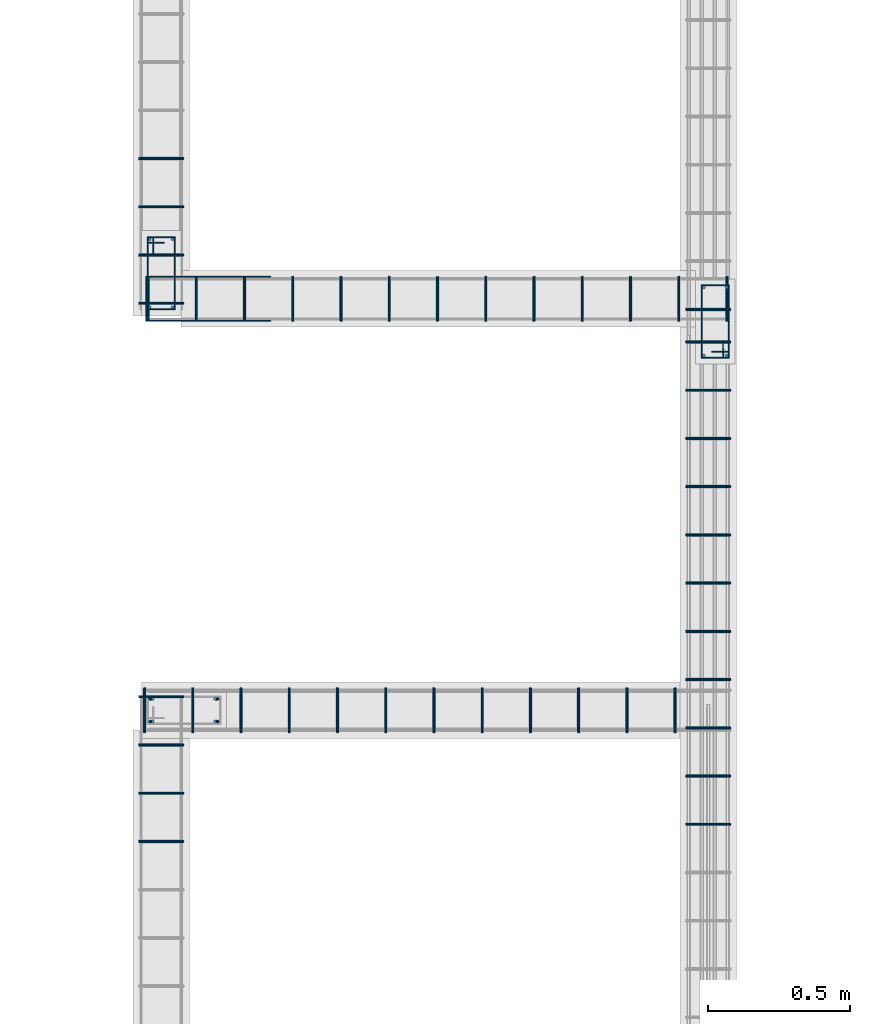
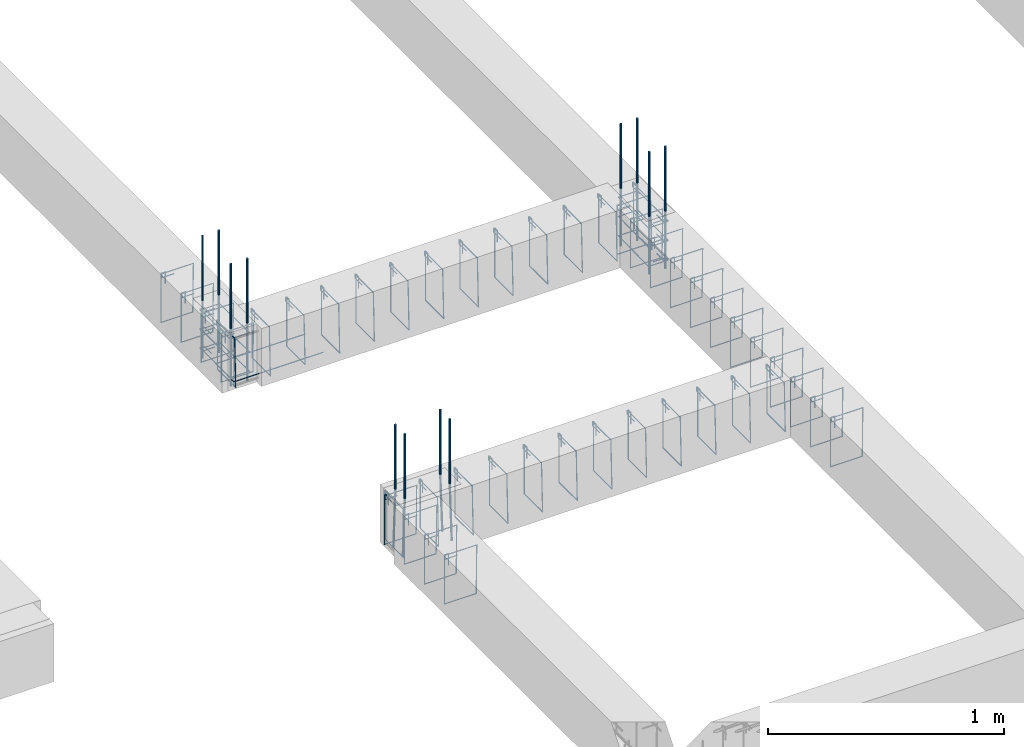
# One storey, part 54 of 150: 64 reinforcing bars.
"""IFC4 building model written with IfcOpenShell, lengths in centimetres."""

import ifcopenshell
import ifcopenshell.guid

model = None  # the IFC model being written
_history = None  # IfcOwnerHistory: only IFC2X3 demands one
_inside = {}  # id of a spatial element -> (the spatial element, [elements in it])
_under = {}  # id of a project, library or spatial element -> (it, [spatial elements below it])
_declared = {}  # id of a project -> (the project, [libraries it declares])
_typed = {}  # id of a type object -> (the type object, [elements of that type])
_made_of = {}  # id of a material, layer set ... -> (it, [elements and type objects made of it])


def new_model(schema):
    """Start an empty IFC model of exactly this schema.

    Asked for "IFC4X3", IfcOpenShell would pick the latest addendum, in which some entities
    have other attributes; the version numbers below select the first issue.
    IFC2X3 requires an IfcOwnerHistory on every rooted entity: one is made here for all.
    """
    global model, _history
    if schema == "IFC4X3":
        model = ifcopenshell.file(schema_version=(4, 3, 0, 0))
    else:
        model = ifcopenshell.file(schema=schema)
    _inside.clear()
    _under.clear()
    _declared.clear()
    _typed.clear()
    _made_of.clear()
    _history = None
    if model.schema == "IFC2X3":
        org = make("IfcOrganization", Name="unknown")
        user = make(
            "IfcPersonAndOrganization",
            ThePerson=make("IfcPerson", FamilyName="unknown"),
            TheOrganization=org,
        )
        app = make(
            "IfcApplication",
            ApplicationDeveloper=org,
            Version="unknown",
            ApplicationFullName="unknown",
            ApplicationIdentifier="unknown",
        )
        _history = make(
            "IfcOwnerHistory",
            OwningUser=user,
            OwningApplication=app,
            ChangeAction="ADDED",
            CreationDate=0,
        )
    return model


def make(cls, **values):
    """One entity of the class cls with the attributes given. An attribute that is None is left unset."""
    return model.create_entity(
        cls, **{name: value for name, value in values.items() if value is not None}
    )


def entity(cls, *values):
    """Any entity or typed value of the class cls, its attributes in the order of the schema. None: left unset."""
    e = model.create_entity(cls)
    for i, value in enumerate(values):
        if value is not None:
            e[i] = value
    return e


def rooted(cls, **values):
    """An entity with a GlobalId (a new one), such as an element, a storey or a relation."""
    return make(cls, GlobalId=ifcopenshell.guid.new(), OwnerHistory=_history, **values)


def si_unit(unit_type, name, prefix=None):
    """IfcSIUnit, for example si_unit("LENGTHUNIT", "METRE", prefix="MILLI")."""
    return make("IfcSIUnit", UnitType=unit_type, Prefix=prefix, Name=name)


def derived_unit(unit_type, elements):
    """IfcDerivedUnit: a product of units, each with its exponent."""
    return make(
        "IfcDerivedUnit",
        Elements=[
            make("IfcDerivedUnitElement", Unit=unit, Exponent=power)
            for unit, power in elements
        ],
        UnitType=unit_type,
    )


def assignment(units):
    """IfcUnitAssignment: the units of a project."""
    return None if units is None else make("IfcUnitAssignment", Units=units)


def point(xyz):
    """IfcCartesianPoint."""
    return None if xyz is None else make("IfcCartesianPoint", Coordinates=xyz)


def direction(xyz):
    """IfcDirection."""
    return None if xyz is None else make("IfcDirection", DirectionRatios=xyz)


def frame(location, z_axis=None, x_axis=None):
    """IfcAxis2Placement3D, a coordinate frame: its origin and axes. An axis left out is left unset."""
    return make(
        "IfcAxis2Placement3D",
        Location=point(location),
        Axis=direction(z_axis),
        RefDirection=direction(x_axis),
    )


def origin_with_axes():
    """The frame at (0, 0, 0) with the z axis (0, 0, 1) and the x axis (1, 0, 0) written out."""
    return frame((0.0, 0.0, 0.0), z_axis=(0.0, 0.0, 1.0), x_axis=(1.0, 0.0, 0.0))


def place(relative_to, where):
    """IfcLocalPlacement: puts the frame where relative to a parent placement (None: the world)."""
    return make(
        "IfcLocalPlacement", PlacementRelTo=relative_to, RelativePlacement=where
    )


def context(
    kind, dimensions, precision=None, world=None, true_north=None, identifier=None
):
    """IfcGeometricRepresentationContext, for example the 3D "Model" context."""
    return make(
        "IfcGeometricRepresentationContext",
        ContextIdentifier=identifier,
        ContextType=kind,
        CoordinateSpaceDimension=dimensions,
        Precision=precision,
        WorldCoordinateSystem=world,
        TrueNorth=true_north,
    )


def project(units=None, contexts=None):
    """IfcProject with its units and contexts."""
    return rooted(
        "IfcProject",
        Name="project",
        RepresentationContexts=contexts,
        UnitsInContext=assignment(units),
    )


def spatial(cls, under=None, at=None, **own):
    """A site, building, storey or space (cls), placed at a placement, below another one or the project."""
    s = rooted(cls, ObjectPlacement=at, **own)
    if under is not None:
        _under.setdefault(under.id(), (under, []))[1].append(s)
    return s


def shape(context_of_items, identifier, shape_type, items):
    """IfcShapeRepresentation: the items that make up one representation, for example the "Body"."""
    return make(
        "IfcShapeRepresentation",
        ContextOfItems=context_of_items,
        RepresentationIdentifier=identifier,
        RepresentationType=shape_type,
        Items=items,
    )


def source(mapping_origin, context_of_items, identifier, shape_type, items):
    """IfcRepresentationMap: a shape defined once, which mapped items show again and again."""
    return make(
        "IfcRepresentationMap",
        MappingOrigin=mapping_origin,
        MappedRepresentation=shape(context_of_items, identifier, shape_type, items),
    )


def transform(
    local_origin,
    x_axis=None,
    y_axis=None,
    z_axis=None,
    scale=None,
    scale2=None,
    scale3=None,
    uniform=True,
):
    """IfcCartesianTransformationOperator3D, or its non-uniform kind. x_axis, y_axis, z_axis: its Axis1, 2, 3."""
    if uniform:
        return make(
            "IfcCartesianTransformationOperator3D",
            Axis1=direction(x_axis),
            Axis2=direction(y_axis),
            LocalOrigin=point(local_origin),
            Scale=scale,
            Axis3=direction(z_axis),
        )
    return make(
        "IfcCartesianTransformationOperator3DnonUniform",
        Axis1=direction(x_axis),
        Axis2=direction(y_axis),
        LocalOrigin=point(local_origin),
        Scale=scale,
        Axis3=direction(z_axis),
        Scale2=scale2,
        Scale3=scale3,
    )


def mapped(mapping_source, mapping_target):
    """IfcMappedItem: shows the shape of a source again, moved by a transform."""
    return make(
        "IfcMappedItem", MappingSource=mapping_source, MappingTarget=mapping_target
    )


def made_of(thing, what):
    """Note that an element or type object is made of a material, layer set ...; save() writes the relation."""
    if what is not None:
        _made_of.setdefault(what.id(), (what, []))[1].append(thing)
    return thing


def element(
    cls,
    number,
    at=None,
    inside=None,
    cuts=None,
    type_object=None,
    material=None,
    context=None,
    identifier="Body",
    shape_type=None,
    held_by="IfcProductDefinitionShape",
    body=None,
    shapes=None,
    **own,
):
    """One element of the class cls, such as IfcWall. Its Tag is "e" and its number.

    at: its placement. inside: the storey or other place that contains it. cuts: it is an
    opening in that element (IfcRelVoidsElement). A single representation is given by context,
    identifier, shape_type and body (its items); several are given by shapes. held_by: the class
    of the entity that holds the representations. save() writes the other relations.
    """
    e = rooted(cls, Tag="e%d" % number, ObjectPlacement=at, **own)
    if body is not None:
        shapes = [shape(context, identifier, shape_type, body)]
    if shapes is not None:
        e.Representation = make(held_by, Representations=shapes)
    if inside is not None:
        _inside.setdefault(inside.id(), (inside, []))[1].append(e)
    if cuts is not None:
        rooted(
            "IfcRelVoidsElement", RelatingBuildingElement=cuts, RelatedOpeningElement=e
        )
    if type_object is not None:
        _typed.setdefault(type_object.id(), (type_object, []))[1].append(e)
    return made_of(e, material)


def aggregate(whole, parts):
    """IfcRelAggregates: a whole, such as a stair, and the parts it consists of."""
    return rooted("IfcRelAggregates", RelatingObject=whole, RelatedObjects=parts)


def save(model, path):
    """Write the relations noted so far, then the file.

    IfcRelAggregates (storeys below a building ...), IfcRelContainedInSpatialStructure (elements
    in a storey), IfcRelDefinesByType, IfcRelAssociatesMaterial and IfcRelDeclares: one each for
    every whole, place, type object, material and project.
    """
    for whole, parts in _under.values():
        aggregate(whole, parts)
    for where, things in _inside.values():
        rooted(
            "IfcRelContainedInSpatialStructure",
            RelatedElements=things,
            RelatingStructure=where,
        )
    for kind, things in _typed.values():
        rooted("IfcRelDefinesByType", RelatedObjects=things, RelatingType=kind)
    for what, things in _made_of.values():
        rooted("IfcRelAssociatesMaterial", RelatedObjects=things, RelatingMaterial=what)
    for by, libraries in _declared.values():
        rooted("IfcRelDeclares", RelatingContext=by, RelatedDefinitions=libraries)
    model.write(path)


model = new_model("IFC4")

# Units and contexts
model_context = context("Model", 3, precision=1e-05, world=origin_with_axes(), identifier="Body")
ifc_project = project(units=[si_unit("LENGTHUNIT", "METRE", prefix="CENTI"), si_unit("VOLUMEUNIT", "CUBIC_METRE"), si_unit("AREAUNIT", "SQUARE_METRE"), si_unit("POWERUNIT", "WATT"), si_unit("LUMINOUSFLUXUNIT", "LUMEN"), si_unit("ELECTRICCURRENTUNIT", "AMPERE"), si_unit("PRESSUREUNIT", "PASCAL", prefix="KILO"), si_unit("MASSUNIT", "GRAM", prefix="KILO"), si_unit("PLANEANGLEUNIT", "RADIAN"), derived_unit("VOLUMETRICFLOWRATEUNIT", [(si_unit("LENGTHUNIT", "METRE"), 3), (si_unit("TIMEUNIT", "SECOND"), -1)])], contexts=[model_context])

# Site, building, storey
site_placement = place(None, frame((-4000.0, 0.0, 0.0), z_axis=(0.0, 0.0, 1.0), x_axis=(1.0, 0.0, 0.0)))
site = spatial("IfcSite", under=ifc_project, at=site_placement, Name="PADRÃO")
building_placement = place(site_placement, frame((0.0, 0.0, -14.0)))
building = spatial("IfcBuilding", under=site, at=building_placement, Name="CRECHE PRÉ-ESCOLA TIPO 2")
placement = place(building_placement, origin_with_axes())
storey_placement = place(placement, frame((0.0, 0.0, 30.0), z_axis=(0.0, 0.0, 1.0), x_axis=(1.0, 0.0, 0.0)))
storey = spatial("IfcBuildingStorey", under=building, at=storey_placement, Name="VIGA BALDRAME", CompositionType="ELEMENT", Elevation=16.0)

# Reinforcing bars
shared_shape_1 = source(origin_with_axes(), model_context, "Body", "AdvancedSweptSolid", [
    entity("IfcSweptDiskSolid", entity("IfcCompositeCurve", [entity("IfcCompositeCurveSegment", "CONTINUOUS", True, entity("IfcPolyline", [entity("IfcCartesianPoint", [4.25, 21.75, 0.0]), entity("IfcCartesianPoint", [4.25, 27.75, 0.0])])), entity("IfcCompositeCurveSegment", "CONTINUOUS", True, entity("IfcPolyline", [entity("IfcCartesianPoint", [4.25, 27.75, 0.0]), entity("IfcCartesianPoint", [2.25, 27.75, 0.0])])), entity("IfcCompositeCurveSegment", "CONTINUOUS", True, entity("IfcPolyline", [entity("IfcCartesianPoint", [2.25, 27.75, 0.0]), entity("IfcCartesianPoint", [2.25, 2.25, 0.0])])), entity("IfcCompositeCurveSegment", "CONTINUOUS", True, entity("IfcPolyline", [entity("IfcCartesianPoint", [2.25, 2.25, 0.0]), entity("IfcCartesianPoint", [11.75, 2.25, 0.0])])), entity("IfcCompositeCurveSegment", "CONTINUOUS", True, entity("IfcPolyline", [entity("IfcCartesianPoint", [11.75, 2.25, 0.0]), entity("IfcCartesianPoint", [11.75, 27.75, -0.5])])), entity("IfcCompositeCurveSegment", "CONTINUOUS", True, entity("IfcPolyline", [entity("IfcCartesianPoint", [11.75, 27.75, -0.5]), entity("IfcCartesianPoint", [2.25, 27.75, -0.5])])), entity("IfcCompositeCurveSegment", "CONTINUOUS", True, entity("IfcPolyline", [entity("IfcCartesianPoint", [2.25, 27.75, -0.5]), entity("IfcCartesianPoint", [2.25, 25.75, -0.5])])), entity("IfcCompositeCurveSegment", "CONTINUOUS", True, entity("IfcPolyline", [entity("IfcCartesianPoint", [2.25, 25.75, -0.5]), entity("IfcCartesianPoint", [8.25, 25.75, -0.5])]))], False), 0.25),
])
for number, where, z_axis, x_axis, name in (
    (1, (2936.24, 1391.51, -25.0), (0.0, 0.0, 1.0), (1.0, 0.0, 0.0), "P104 - Estribo"),
    (2, (2936.24, 1391.51, -15.0), (0.0, 0.0, 1.0), (1.0, 0.0, 0.0), "P104 - Estribo"),
    (3, (2936.24, 1391.51, -5.0), (0.0, 0.0, 1.0), (1.0, 0.0, 0.0), "P104 - Estribo"),
):
    element("IfcReinforcingBar", number, at=place(storey_placement, frame(where, z_axis=z_axis, x_axis=x_axis)), inside=storey, Name=name, BarLength=0.0, CrossSectionArea=1.9634954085e-05, NominalDiameter=0.5, PredefinedType="MAIN", context=model_context, shape_type="MappedRepresentation", body=[
        mapped(shared_shape_1, transform((0.0, 0.0, 0.0), scale=1.0)),
    ])
shared_shape_2 = source(origin_with_axes(), model_context, "Body", "AdvancedSweptSolid", [
    entity("IfcSweptDiskSolid", entity("IfcCompositeCurve", [entity("IfcCompositeCurveSegment", "CONTINUOUS", True, entity("IfcPolyline", [entity("IfcCartesianPoint", [4.25, 21.75, 0.0]), entity("IfcCartesianPoint", [4.25, 27.75, 0.0])])), entity("IfcCompositeCurveSegment", "CONTINUOUS", True, entity("IfcPolyline", [entity("IfcCartesianPoint", [4.25, 27.75, 0.0]), entity("IfcCartesianPoint", [2.25, 27.75, 0.0])])), entity("IfcCompositeCurveSegment", "CONTINUOUS", True, entity("IfcPolyline", [entity("IfcCartesianPoint", [2.25, 27.75, 0.0]), entity("IfcCartesianPoint", [2.25, 2.25, 0.0])])), entity("IfcCompositeCurveSegment", "CONTINUOUS", True, entity("IfcPolyline", [entity("IfcCartesianPoint", [2.25, 2.25, 0.0]), entity("IfcCartesianPoint", [11.75, 2.25, 0.0])])), entity("IfcCompositeCurveSegment", "CONTINUOUS", True, entity("IfcPolyline", [entity("IfcCartesianPoint", [11.75, 2.25, 0.0]), entity("IfcCartesianPoint", [11.75, 27.75, -0.5])])), entity("IfcCompositeCurveSegment", "CONTINUOUS", True, entity("IfcPolyline", [entity("IfcCartesianPoint", [11.75, 27.75, -0.5]), entity("IfcCartesianPoint", [2.25, 27.75, -0.5])])), entity("IfcCompositeCurveSegment", "CONTINUOUS", True, entity("IfcPolyline", [entity("IfcCartesianPoint", [2.25, 27.75, -0.5]), entity("IfcCartesianPoint", [2.25, 25.75, -0.5])])), entity("IfcCompositeCurveSegment", "CONTINUOUS", True, entity("IfcPolyline", [entity("IfcCartesianPoint", [2.25, 25.75, -0.5]), entity("IfcCartesianPoint", [8.25, 25.75, -0.5])]))], False), 0.25),
])
for number, where, z_axis, x_axis, name in (
    (4, (3145.5, 1404.52, -15.0), (0.0, 0.0, 1.0), (-1.0, 0.0, 0.0), "P105 - Estribo"),
    (5, (3145.5, 1404.52, -5.0), (0.0, 0.0, 1.0), (-1.0, 0.0, 0.0), "P105 - Estribo"),
    (6, (3145.5, 1404.52, -25.0), (0.0, 0.0, 1.0), (-1.0, 0.0, 0.0), "P105 - Estribo"),
):
    element("IfcReinforcingBar", number, at=place(storey_placement, frame(where, z_axis=z_axis, x_axis=x_axis)), inside=storey, Name=name, BarLength=0.0, CrossSectionArea=1.9634954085e-05, NominalDiameter=0.5, PredefinedType="MAIN", context=model_context, shape_type="MappedRepresentation", body=[
        mapped(shared_shape_2, transform((0.0, 0.0, 0.0), scale=1.0)),
    ])
shared_shape_3 = source(origin_with_axes(), model_context, "Body", "AdvancedSweptSolid", [
    entity("IfcSweptDiskSolid", entity("IfcCompositeCurve", [entity("IfcCompositeCurveSegment", "CONTINUOUS", True, entity("IfcPolyline", [entity("IfcCartesianPoint", [2.0, -6.0, 0.0]), entity("IfcCartesianPoint", [2.0, 0.0, 0.0])])), entity("IfcCompositeCurveSegment", "CONTINUOUS", True, entity("IfcPolyline", [entity("IfcCartesianPoint", [2.0, 0.0, 0.0]), entity("IfcCartesianPoint", [0.0, 0.0, 0.0])])), entity("IfcCompositeCurveSegment", "CONTINUOUS", True, entity("IfcPolyline", [entity("IfcCartesianPoint", [0.0, 0.0, 0.0]), entity("IfcCartesianPoint", [0.0, -25.5, 0.0])])), entity("IfcCompositeCurveSegment", "CONTINUOUS", True, entity("IfcPolyline", [entity("IfcCartesianPoint", [0.0, -25.5, 0.0]), entity("IfcCartesianPoint", [15.5, -25.5, 0.0])])), entity("IfcCompositeCurveSegment", "CONTINUOUS", True, entity("IfcPolyline", [entity("IfcCartesianPoint", [15.5, -25.5, 0.0]), entity("IfcCartesianPoint", [15.5, 0.0, 0.5])])), entity("IfcCompositeCurveSegment", "CONTINUOUS", True, entity("IfcPolyline", [entity("IfcCartesianPoint", [15.5, 0.0, 0.5]), entity("IfcCartesianPoint", [0.0, 0.0, 0.5])])), entity("IfcCompositeCurveSegment", "CONTINUOUS", True, entity("IfcPolyline", [entity("IfcCartesianPoint", [0.0, 0.0, 0.5]), entity("IfcCartesianPoint", [0.0, -2.0, 0.5])])), entity("IfcCompositeCurveSegment", "CONTINUOUS", True, entity("IfcPolyline", [entity("IfcCartesianPoint", [0.0, -2.0, 0.5]), entity("IfcCartesianPoint", [6.0, -2.0, 0.5])]))], False), 0.25),
])
for number, where, z_axis, x_axis, name in (
    (7, (3128.25, 1365.55, -2.25), (0.0, -1.0, 0.0), (1.0, 0.0, 0.0), "V216 - Estribo"),
    (8, (3128.25, 1348.55, -2.25), (0.0, -1.0, 0.0), (1.0, 0.0, 0.0), "V216 - Estribo"),
    (9, (3128.25, 1331.55, -2.25), (0.0, -1.0, 0.0), (1.0, 0.0, 0.0), "V216 - Estribo"),
    (10, (3128.25, 1314.55, -2.25), (0.0, -1.0, 0.0), (1.0, 0.0, 0.0), "V216 - Estribo"),
    (11, (3128.25, 1297.55, -2.25), (0.0, -1.0, 0.0), (1.0, 0.0, 0.0), "V216 - Estribo"),
    (12, (3128.25, 1280.55, -2.25), (0.0, -1.0, 0.0), (1.0, 0.0, 0.0), "V216 - Estribo"),
    (13, (3128.25, 1263.55, -2.25), (0.0, -1.0, 0.0), (1.0, 0.0, 0.0), "V216 - Estribo"),
    (14, (3128.25, 1246.55, -2.25), (0.0, -1.0, 0.0), (1.0, 0.0, 0.0), "V216 - Estribo"),
    (15, (3128.25, 1229.55, -2.25), (0.0, -1.0, 0.0), (1.0, 0.0, 0.0), "V216 - Estribo"),
    (16, (3128.25, 1212.55, -2.25), (0.0, -1.0, 0.0), (1.0, 0.0, 0.0), "V216 - Estribo"),
    (17, (3128.25, 1382.55, -2.25), (0.0, -1.0, 0.0), (1.0, 0.0, 0.0), "V216 - Estribo"),
):
    element("IfcReinforcingBar", number, at=place(storey_placement, frame(where, z_axis=z_axis, x_axis=x_axis)), inside=storey, Name=name, BarLength=0.0, CrossSectionArea=1.9634954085e-05, NominalDiameter=0.5, PredefinedType="MAIN", context=model_context, shape_type="MappedRepresentation", body=[
        mapped(shared_shape_3, transform((0.0, 0.0, 0.0), scale=1.0)),
    ])
shared_shape_4 = source(origin_with_axes(), model_context, "Body", "AdvancedSweptSolid", [
    entity("IfcSweptDiskSolid", entity("IfcCompositeCurve", [entity("IfcCompositeCurveSegment", "CONTINUOUS", True, entity("IfcPolyline", [entity("IfcCartesianPoint", [2.0, -6.0, 0.0]), entity("IfcCartesianPoint", [2.0, 0.0, 0.0])])), entity("IfcCompositeCurveSegment", "CONTINUOUS", True, entity("IfcPolyline", [entity("IfcCartesianPoint", [2.0, 0.0, 0.0]), entity("IfcCartesianPoint", [0.0, 0.0, 0.0])])), entity("IfcCompositeCurveSegment", "CONTINUOUS", True, entity("IfcPolyline", [entity("IfcCartesianPoint", [0.0, 0.0, 0.0]), entity("IfcCartesianPoint", [0.0, -25.5, 0.0])])), entity("IfcCompositeCurveSegment", "CONTINUOUS", True, entity("IfcPolyline", [entity("IfcCartesianPoint", [0.0, -25.5, 0.0]), entity("IfcCartesianPoint", [15.5, -25.5, 0.0])])), entity("IfcCompositeCurveSegment", "CONTINUOUS", True, entity("IfcPolyline", [entity("IfcCartesianPoint", [15.5, -25.5, 0.0]), entity("IfcCartesianPoint", [15.5, 0.0, 0.5])])), entity("IfcCompositeCurveSegment", "CONTINUOUS", True, entity("IfcPolyline", [entity("IfcCartesianPoint", [15.5, 0.0, 0.5]), entity("IfcCartesianPoint", [0.0, 0.0, 0.5])])), entity("IfcCompositeCurveSegment", "CONTINUOUS", True, entity("IfcPolyline", [entity("IfcCartesianPoint", [0.0, 0.0, 0.5]), entity("IfcCartesianPoint", [0.0, -2.0, 0.5])])), entity("IfcCompositeCurveSegment", "CONTINUOUS", True, entity("IfcPolyline", [entity("IfcCartesianPoint", [0.0, -2.0, 0.5]), entity("IfcCartesianPoint", [6.0, -2.0, 0.5])]))], False), 0.25),
])
reinforcing_bar_1_placement = place(storey_placement, frame((3128.25, 1394.02, -2.25), z_axis=(0.0, -1.0, 0.0), x_axis=(1.0, 0.0, 0.0)))
element("IfcReinforcingBar", 18, at=reinforcing_bar_1_placement, inside=storey, Name="V216 - Estribo", BarLength=0.0, CrossSectionArea=1.9634954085e-05, NominalDiameter=0.5, PredefinedType="MAIN", context=model_context, shape_type="MappedRepresentation", body=[
    mapped(shared_shape_4, transform((0.0, 0.0, 0.0), scale=1.0)),
])
shared_shape_5 = source(origin_with_axes(), model_context, "Body", "AdvancedSweptSolid", [
    entity("IfcSweptDiskSolid", entity("IfcCompositeCurve", [entity("IfcCompositeCurveSegment", "CONTINUOUS", True, entity("IfcPolyline", [entity("IfcCartesianPoint", [2.0, -6.0, 0.0]), entity("IfcCartesianPoint", [2.0, 0.0, 0.0])])), entity("IfcCompositeCurveSegment", "CONTINUOUS", True, entity("IfcPolyline", [entity("IfcCartesianPoint", [2.0, 0.0, 0.0]), entity("IfcCartesianPoint", [0.0, 0.0, 0.0])])), entity("IfcCompositeCurveSegment", "CONTINUOUS", True, entity("IfcPolyline", [entity("IfcCartesianPoint", [0.0, 0.0, 0.0]), entity("IfcCartesianPoint", [0.0, -25.5, 0.0])])), entity("IfcCompositeCurveSegment", "CONTINUOUS", True, entity("IfcPolyline", [entity("IfcCartesianPoint", [0.0, -25.5, 0.0]), entity("IfcCartesianPoint", [15.5, -25.5, 0.0])])), entity("IfcCompositeCurveSegment", "CONTINUOUS", True, entity("IfcPolyline", [entity("IfcCartesianPoint", [15.5, -25.5, 0.0]), entity("IfcCartesianPoint", [15.5, 0.0, 0.5])])), entity("IfcCompositeCurveSegment", "CONTINUOUS", True, entity("IfcPolyline", [entity("IfcCartesianPoint", [15.5, 0.0, 0.5]), entity("IfcCartesianPoint", [0.0, 0.0, 0.5])])), entity("IfcCompositeCurveSegment", "CONTINUOUS", True, entity("IfcPolyline", [entity("IfcCartesianPoint", [0.0, 0.0, 0.5]), entity("IfcCartesianPoint", [0.0, -2.0, 0.5])])), entity("IfcCompositeCurveSegment", "CONTINUOUS", True, entity("IfcPolyline", [entity("IfcCartesianPoint", [0.0, -2.0, 0.5]), entity("IfcCartesianPoint", [6.0, -2.0, 0.5])]))], False), 0.25),
])
for number, where, z_axis, x_axis, name in (
    (19, (2938.87, 1405.26, -2.25), (-1.0, 0.0, 0.0), (0.0, -1.0, 0.0), "V135 - Estribo"),
    (20, (2955.87, 1405.26, -2.25), (-1.0, 0.0, 0.0), (0.0, -1.0, 0.0), "V135 - Estribo"),
    (21, (2972.87, 1405.26, -2.25), (-1.0, 0.0, 0.0), (0.0, -1.0, 0.0), "V135 - Estribo"),
    (22, (2989.87, 1405.26, -2.25), (-1.0, 0.0, 0.0), (0.0, -1.0, 0.0), "V135 - Estribo"),
    (23, (3006.87, 1405.26, -2.25), (-1.0, 0.0, 0.0), (0.0, -1.0, 0.0), "V135 - Estribo"),
    (24, (3023.87, 1405.26, -2.25), (-1.0, 0.0, 0.0), (0.0, -1.0, 0.0), "V135 - Estribo"),
    (25, (3040.87, 1405.26, -2.25), (-1.0, 0.0, 0.0), (0.0, -1.0, 0.0), "V135 - Estribo"),
    (26, (3057.87, 1405.26, -2.25), (-1.0, 0.0, 0.0), (0.0, -1.0, 0.0), "V135 - Estribo"),
    (27, (3074.87, 1405.26, -2.25), (-1.0, 0.0, 0.0), (0.0, -1.0, 0.0), "V135 - Estribo"),
    (28, (3091.87, 1405.26, -2.25), (-1.0, 0.0, 0.0), (0.0, -1.0, 0.0), "V135 - Estribo"),
    (29, (3142.87, 1405.26, -2.25), (-1.0, 0.0, 0.0), (0.0, -1.0, 0.0), "V135 - Estribo"),
    (30, (3108.87, 1405.26, -2.25), (-1.0, 0.0, 0.0), (0.0, -1.0, 0.0), "V135 - Estribo"),
    (31, (3125.87, 1405.26, -2.25), (-1.0, 0.0, 0.0), (0.0, -1.0, 0.0), "V135 - Estribo"),
):
    element("IfcReinforcingBar", number, at=place(storey_placement, frame(where, z_axis=z_axis, x_axis=x_axis)), inside=storey, Name=name, BarLength=0.0, CrossSectionArea=1.9634954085e-05, NominalDiameter=0.5, PredefinedType="MAIN", context=model_context, shape_type="MappedRepresentation", body=[
        mapped(shared_shape_5, transform((0.0, 0.0, 0.0), scale=1.0)),
    ])
shared_shape_6 = source(origin_with_axes(), model_context, "Body", "AdvancedSweptSolid", [
    entity("IfcSweptDiskSolid", entity("IfcCompositeCurve", [entity("IfcCompositeCurveSegment", "CONTINUOUS", True, entity("IfcPolyline", [entity("IfcCartesianPoint", [0.0, 0.0, 0.0]), entity("IfcCartesianPoint", [-43.9159679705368, 0.0, 0.0])])), entity("IfcCompositeCurveSegment", "CONTINUOUS", True, entity("IfcPolyline", [entity("IfcCartesianPoint", [-43.9159679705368, 0.0, 0.0]), entity("IfcCartesianPoint", [-43.9159679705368, -15.5, 0.0])])), entity("IfcCompositeCurveSegment", "CONTINUOUS", True, entity("IfcPolyline", [entity("IfcCartesianPoint", [-43.9159679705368, -15.5, 0.0]), entity("IfcCartesianPoint", [0.0, -15.5, 0.0])]))], False), 0.25),
])
reinforcing_bar_2_placement = place(storey_placement, frame((2981.90596797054, 1405.26, -24.6), z_axis=(0.0, 0.0, 1.0), x_axis=(1.0, 0.0, 0.0)))
element("IfcReinforcingBar", 32, at=reinforcing_bar_2_placement, inside=storey, Name="V135 - Grampo", BarLength=0.0, CrossSectionArea=1.9634954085e-05, NominalDiameter=0.5, PredefinedType="MAIN", context=model_context, shape_type="MappedRepresentation", body=[
    mapped(shared_shape_6, transform((0.0, 0.0, 0.0), scale=1.0)),
])
shared_shape_7 = source(origin_with_axes(), model_context, "Body", "AdvancedSweptSolid", [
    entity("IfcSweptDiskSolid", entity("IfcCompositeCurve", [entity("IfcCompositeCurveSegment", "CONTINUOUS", True, entity("IfcPolyline", [entity("IfcCartesianPoint", [2.0, -6.0, 0.0]), entity("IfcCartesianPoint", [2.0, 0.0, 0.0])])), entity("IfcCompositeCurveSegment", "CONTINUOUS", True, entity("IfcPolyline", [entity("IfcCartesianPoint", [2.0, 0.0, 0.0]), entity("IfcCartesianPoint", [0.0, 0.0, 0.0])])), entity("IfcCompositeCurveSegment", "CONTINUOUS", True, entity("IfcPolyline", [entity("IfcCartesianPoint", [0.0, 0.0, 0.0]), entity("IfcCartesianPoint", [0.0, -25.5, 0.0])])), entity("IfcCompositeCurveSegment", "CONTINUOUS", True, entity("IfcPolyline", [entity("IfcCartesianPoint", [0.0, -25.5, 0.0]), entity("IfcCartesianPoint", [15.5, -25.5, 0.0])])), entity("IfcCompositeCurveSegment", "CONTINUOUS", True, entity("IfcPolyline", [entity("IfcCartesianPoint", [15.5, -25.5, 0.0]), entity("IfcCartesianPoint", [15.5, 0.0, 0.5])])), entity("IfcCompositeCurveSegment", "CONTINUOUS", True, entity("IfcPolyline", [entity("IfcCartesianPoint", [15.5, 0.0, 0.5]), entity("IfcCartesianPoint", [0.0, 0.0, 0.5])])), entity("IfcCompositeCurveSegment", "CONTINUOUS", True, entity("IfcPolyline", [entity("IfcCartesianPoint", [0.0, 0.0, 0.5]), entity("IfcCartesianPoint", [0.0, -2.0, 0.5])])), entity("IfcCompositeCurveSegment", "CONTINUOUS", True, entity("IfcPolyline", [entity("IfcCartesianPoint", [0.0, -2.0, 0.5]), entity("IfcCartesianPoint", [6.0, -2.0, 0.5])]))], False), 0.25),
])
for number, where, z_axis, x_axis, name in (
    (33, (2935.49, 1396.175, -2.25), (0.0, -1.0, 0.0), (1.0, 0.0, 0.0), "V211 - Estribo"),
    (34, (2935.49, 1413.175, -2.25), (0.0, -1.0, 0.0), (1.0, 0.0, 0.0), "V211 - Estribo"),
    (35, (2935.49, 1430.175, -2.25), (0.0, -1.0, 0.0), (1.0, 0.0, 0.0), "V211 - Estribo"),
    (36, (2935.49, 1447.175, -2.25), (0.0, -1.0, 0.0), (1.0, 0.0, 0.0), "V211 - Estribo"),
):
    element("IfcReinforcingBar", number, at=place(storey_placement, frame(where, z_axis=z_axis, x_axis=x_axis)), inside=storey, Name=name, BarLength=0.0, CrossSectionArea=1.9634954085e-05, NominalDiameter=0.5, PredefinedType="MAIN", context=model_context, shape_type="MappedRepresentation", body=[
        mapped(shared_shape_7, transform((0.0, 0.0, 0.0), scale=1.0)),
    ])
shared_shape_8 = source(origin_with_axes(), model_context, "Body", "AdvancedSweptSolid", [
    entity("IfcSweptDiskSolid", entity("IfcCompositeCurve", [entity("IfcCompositeCurveSegment", "CONTINUOUS", True, entity("IfcPolyline", [entity("IfcCartesianPoint", [2.0, -6.0, 0.0]), entity("IfcCartesianPoint", [2.0, 0.0, 0.0])])), entity("IfcCompositeCurveSegment", "CONTINUOUS", True, entity("IfcPolyline", [entity("IfcCartesianPoint", [2.0, 0.0, 0.0]), entity("IfcCartesianPoint", [0.0, 0.0, 0.0])])), entity("IfcCompositeCurveSegment", "CONTINUOUS", True, entity("IfcPolyline", [entity("IfcCartesianPoint", [0.0, 0.0, 0.0]), entity("IfcCartesianPoint", [0.0, -25.5, 0.0])])), entity("IfcCompositeCurveSegment", "CONTINUOUS", True, entity("IfcPolyline", [entity("IfcCartesianPoint", [0.0, -25.5, 0.0]), entity("IfcCartesianPoint", [15.5, -25.5, 0.0])])), entity("IfcCompositeCurveSegment", "CONTINUOUS", True, entity("IfcPolyline", [entity("IfcCartesianPoint", [15.5, -25.5, 0.0]), entity("IfcCartesianPoint", [15.5, 0.0, 0.5])])), entity("IfcCompositeCurveSegment", "CONTINUOUS", True, entity("IfcPolyline", [entity("IfcCartesianPoint", [15.5, 0.0, 0.5]), entity("IfcCartesianPoint", [0.0, 0.0, 0.5])])), entity("IfcCompositeCurveSegment", "CONTINUOUS", True, entity("IfcPolyline", [entity("IfcCartesianPoint", [0.0, 0.0, 0.5]), entity("IfcCartesianPoint", [0.0, -2.0, 0.5])])), entity("IfcCompositeCurveSegment", "CONTINUOUS", True, entity("IfcPolyline", [entity("IfcCartesianPoint", [0.0, -2.0, 0.5]), entity("IfcCartesianPoint", [6.0, -2.0, 0.5])]))], False), 0.25),
])
for number, where, z_axis, x_axis, name in (
    (37, (3005.62, 1260.27, -2.25), (-1.0, 0.0, 0.0), (0.0, -1.0, 0.0), "V138 - Estribo"),
    (38, (2988.62, 1260.27, -2.25), (-1.0, 0.0, 0.0), (0.0, -1.0, 0.0), "V138 - Estribo"),
    (39, (2937.62, 1260.27, -2.25), (-1.0, 0.0, 0.0), (0.0, -1.0, 0.0), "V138 - Estribo"),
    (40, (2954.62, 1260.27, -2.25), (-1.0, 0.0, 0.0), (0.0, -1.0, 0.0), "V138 - Estribo"),
    (41, (3039.62, 1260.27, -2.25), (-1.0, 0.0, 0.0), (0.0, -1.0, 0.0), "V138 - Estribo"),
    (42, (3056.62, 1260.27, -2.25), (-1.0, 0.0, 0.0), (0.0, -1.0, 0.0), "V138 - Estribo"),
    (43, (3073.62, 1260.27, -2.25), (-1.0, 0.0, 0.0), (0.0, -1.0, 0.0), "V138 - Estribo"),
    (44, (2971.62, 1260.27, -2.25), (-1.0, 0.0, 0.0), (0.0, -1.0, 0.0), "V138 - Estribo"),
    (45, (3107.62, 1260.27, -2.25), (-1.0, 0.0, 0.0), (0.0, -1.0, 0.0), "V138 - Estribo"),
    (46, (3124.62, 1260.27, -2.25), (-1.0, 0.0, 0.0), (0.0, -1.0, 0.0), "V138 - Estribo"),
    (47, (3090.62, 1260.27, -2.25), (-1.0, 0.0, 0.0), (0.0, -1.0, 0.0), "V138 - Estribo"),
    (48, (3022.62, 1260.27, -2.25), (-1.0, 0.0, 0.0), (0.0, -1.0, 0.0), "V138 - Estribo"),
):
    element("IfcReinforcingBar", number, at=place(storey_placement, frame(where, z_axis=z_axis, x_axis=x_axis)), inside=storey, Name=name, BarLength=0.0, CrossSectionArea=1.9634954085e-05, NominalDiameter=0.5, PredefinedType="MAIN", context=model_context, shape_type="MappedRepresentation", body=[
        mapped(shared_shape_8, transform((0.0, 0.0, 0.0), scale=1.0)),
    ])
shared_shape_9 = source(origin_with_axes(), model_context, "Body", "AdvancedSweptSolid", [
    entity("IfcSweptDiskSolid", entity("IfcCompositeCurve", [entity("IfcCompositeCurveSegment", "CONTINUOUS", True, entity("IfcPolyline", [entity("IfcCartesianPoint", [2.0, -6.0, 0.0]), entity("IfcCartesianPoint", [2.0, 0.0, 0.0])])), entity("IfcCompositeCurveSegment", "CONTINUOUS", True, entity("IfcPolyline", [entity("IfcCartesianPoint", [2.0, 0.0, 0.0]), entity("IfcCartesianPoint", [0.0, 0.0, 0.0])])), entity("IfcCompositeCurveSegment", "CONTINUOUS", True, entity("IfcPolyline", [entity("IfcCartesianPoint", [0.0, 0.0, 0.0]), entity("IfcCartesianPoint", [0.0, -25.5, 0.0])])), entity("IfcCompositeCurveSegment", "CONTINUOUS", True, entity("IfcPolyline", [entity("IfcCartesianPoint", [0.0, -25.5, 0.0]), entity("IfcCartesianPoint", [15.5, -25.5, 0.0])])), entity("IfcCompositeCurveSegment", "CONTINUOUS", True, entity("IfcPolyline", [entity("IfcCartesianPoint", [15.5, -25.5, 0.0]), entity("IfcCartesianPoint", [15.5, 0.0, 0.5])])), entity("IfcCompositeCurveSegment", "CONTINUOUS", True, entity("IfcPolyline", [entity("IfcCartesianPoint", [15.5, 0.0, 0.5]), entity("IfcCartesianPoint", [0.0, 0.0, 0.5])])), entity("IfcCompositeCurveSegment", "CONTINUOUS", True, entity("IfcPolyline", [entity("IfcCartesianPoint", [0.0, 0.0, 0.5]), entity("IfcCartesianPoint", [0.0, -2.0, 0.5])])), entity("IfcCompositeCurveSegment", "CONTINUOUS", True, entity("IfcPolyline", [entity("IfcCartesianPoint", [0.0, -2.0, 0.5]), entity("IfcCartesianPoint", [6.0, -2.0, 0.5])]))], False), 0.25),
])
for number, where, z_axis, x_axis, name in (
    (49, (2935.49, 1257.52, -2.25), (0.0, -1.0, 0.0), (1.0, 0.0, 0.0), "V210 - Estribo"),
    (50, (2935.49, 1240.52, -2.25), (0.0, -1.0, 0.0), (1.0, 0.0, 0.0), "V210 - Estribo"),
    (51, (2935.49, 1223.52, -2.25), (0.0, -1.0, 0.0), (1.0, 0.0, 0.0), "V210 - Estribo"),
    (52, (2935.49, 1206.52, -2.25), (0.0, -1.0, 0.0), (1.0, 0.0, 0.0), "V210 - Estribo"),
):
    element("IfcReinforcingBar", number, at=place(storey_placement, frame(where, z_axis=z_axis, x_axis=x_axis)), inside=storey, Name=name, BarLength=0.0, CrossSectionArea=1.9634954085e-05, NominalDiameter=0.5, PredefinedType="MAIN", context=model_context, shape_type="MappedRepresentation", body=[
        mapped(shared_shape_9, transform((0.0, 0.0, 0.0), scale=1.0)),
    ])
for number, where, z_axis, x_axis, name in (
    (53, (2947.24, 1394.51, 33.3573001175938), (0.0, 0.0, 1.0), (1.0, 0.0, 0.0), "P104 - Longitudinal"),
    (54, (2939.24, 1394.51, 33.3573001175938), (0.0, 0.0, 1.0), (1.0, 0.0, 0.0), "P104 - Longitudinal"),
    (55, (2939.24, 1418.51, 33.3573001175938), (0.0, 0.0, 1.0), (1.0, 0.0, 0.0), "P104 - Longitudinal"),
    (56, (2947.24, 1418.51, 33.3573001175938), (0.0, 0.0, 1.0), (1.0, 0.0, 0.0), "P104 - Longitudinal"),
    (57, (3134.5, 1377.52, 33.3573001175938), (0.0, 0.0, 1.0), (1.0, 0.0, 0.0), "P105 - Longitudinal"),
    (58, (3142.5, 1401.52, 33.3573001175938), (0.0, 0.0, 1.0), (1.0, 0.0, 0.0), "P105 - Longitudinal"),
    (59, (3134.5, 1401.52, 33.3573001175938), (0.0, 0.0, 1.0), (1.0, 0.0, 0.0), "P105 - Longitudinal"),
    (60, (3142.5, 1377.52, 33.3573001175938), (0.0, 0.0, 1.0), (1.0, 0.0, 0.0), "P105 - Longitudinal"),
):
    element("IfcReinforcingBar", number, at=place(storey_placement, frame(where, z_axis=z_axis, x_axis=x_axis)), inside=storey, Name=name, BarLength=0.0, CrossSectionArea=7.853981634e-05, NominalDiameter=1.0, PredefinedType="MAIN", context=model_context, shape_type="AdvancedSweptSolid", body=[
        entity("IfcSweptDiskSolid", entity("IfcCompositeCurve", [entity("IfcCompositeCurveSegment", "CONTINUOUS", True, entity("IfcPolyline", [entity("IfcCartesianPoint", [0.0, 0.0, -63.3573001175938]), entity("IfcCartesianPoint", [0.0, 0.0, 0.0])]))], False), 0.5),
    ])
reinforcing_bar_3_placement = place(storey_placement, frame((2962.73986122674, 1248.52, 33.3573001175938), z_axis=(0.0, 0.0, 1.0), x_axis=(1.0, 0.0, 0.0)))
element("IfcReinforcingBar", 61, at=reinforcing_bar_3_placement, inside=storey, Name="P112 - Longitudinal", BarLength=0.0, CrossSectionArea=7.853981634e-05, NominalDiameter=1.0, PredefinedType="MAIN", context=model_context, shape_type="AdvancedSweptSolid", body=[
    entity("IfcSweptDiskSolid", entity("IfcCompositeCurve", [entity("IfcCompositeCurveSegment", "CONTINUOUS", True, entity("IfcPolyline", [entity("IfcCartesianPoint", [0.500138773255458, 0.0, -63.3573001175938]), entity("IfcCartesianPoint", [-0.499861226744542, 0.0, -33.3573001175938])])), entity("IfcCompositeCurveSegment", "CONTINUOUS", True, entity("IfcPolyline", [entity("IfcCartesianPoint", [-0.499861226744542, 0.0, -33.3573001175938]), entity("IfcCartesianPoint", [-0.499861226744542, 0.0, 0.0])]))], False), 0.5),
])
for number, where, z_axis, x_axis, name in (
    (62, (2939.74013877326, 1248.52, 33.3573001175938), (0.0, 0.0, 1.0), (1.0, 0.0, 0.0), "P112 - Longitudinal"),
    (63, (2939.74013877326, 1256.52, 33.3573001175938), (0.0, 0.0, 1.0), (1.0, 0.0, 0.0), "P112 - Longitudinal"),
):
    element("IfcReinforcingBar", number, at=place(storey_placement, frame(where, z_axis=z_axis, x_axis=x_axis)), inside=storey, Name=name, BarLength=0.0, CrossSectionArea=7.853981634e-05, NominalDiameter=1.0, PredefinedType="MAIN", context=model_context, shape_type="AdvancedSweptSolid", body=[
        entity("IfcSweptDiskSolid", entity("IfcCompositeCurve", [entity("IfcCompositeCurveSegment", "CONTINUOUS", True, entity("IfcPolyline", [entity("IfcCartesianPoint", [-0.500138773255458, 0.0, -63.3573001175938]), entity("IfcCartesianPoint", [0.499861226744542, 0.0, -33.3573001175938])])), entity("IfcCompositeCurveSegment", "CONTINUOUS", True, entity("IfcPolyline", [entity("IfcCartesianPoint", [0.499861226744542, 0.0, -33.3573001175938]), entity("IfcCartesianPoint", [0.499861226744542, 0.0, 0.0])]))], False), 0.5),
    ])
reinforcing_bar_4_placement = place(storey_placement, frame((2962.73986122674, 1256.52, 33.3573001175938), z_axis=(0.0, 0.0, 1.0), x_axis=(1.0, 0.0, 0.0)))
element("IfcReinforcingBar", 64, at=reinforcing_bar_4_placement, inside=storey, Name="P112 - Longitudinal", BarLength=0.0, CrossSectionArea=7.853981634e-05, NominalDiameter=1.0, PredefinedType="MAIN", context=model_context, shape_type="AdvancedSweptSolid", body=[
    entity("IfcSweptDiskSolid", entity("IfcCompositeCurve", [entity("IfcCompositeCurveSegment", "CONTINUOUS", True, entity("IfcPolyline", [entity("IfcCartesianPoint", [0.500138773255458, 0.0, -63.3573001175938]), entity("IfcCartesianPoint", [-0.499861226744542, 0.0, -33.3573001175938])])), entity("IfcCompositeCurveSegment", "CONTINUOUS", True, entity("IfcPolyline", [entity("IfcCartesianPoint", [-0.499861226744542, 0.0, -33.3573001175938]), entity("IfcCartesianPoint", [-0.499861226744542, 0.0, 0.0])]))], False), 0.5),
])

save(model, "model.ifc")
